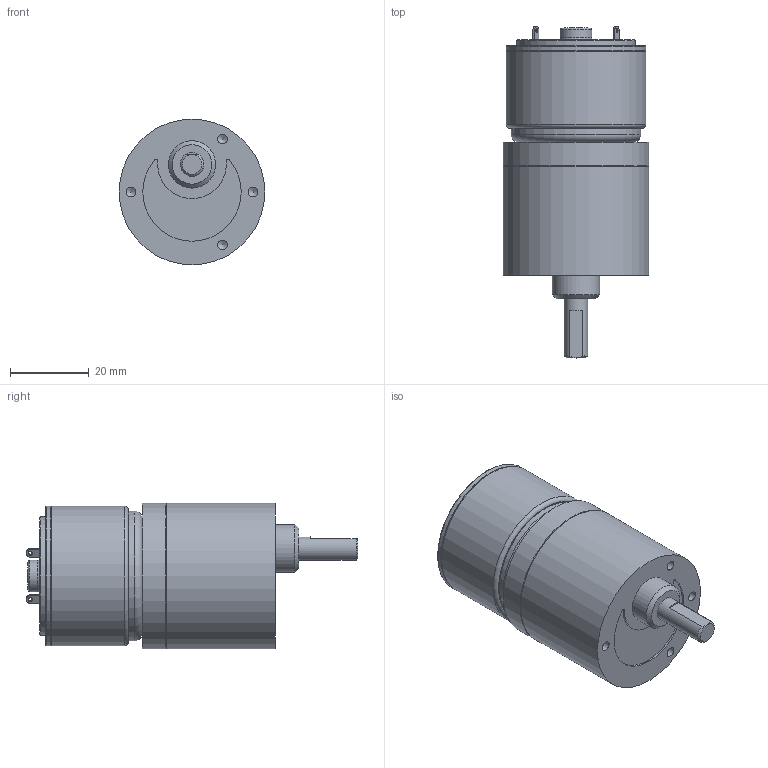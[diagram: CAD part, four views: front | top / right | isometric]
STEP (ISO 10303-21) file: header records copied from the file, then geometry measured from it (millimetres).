
FILE_DESCRIPTION((''),'2;1');
FILE_NAME('C:\Documents and Settings\SSEGAWA\デスクトップ\TP-3526E-HM-6.STP','2013-07-09T15:15:31',('SSEGAWA'),(''),'Autodesk Inventor 2010','Autodesk Inventor 2010','');
FILE_SCHEMA(('CONFIG_CONTROL_DESIGN'));
Length unit declared in the file: millimetre
Products named in the file (3): tp_3526e_hm_6; hm_6; tp_3526e
Assembly tree (2 placements, depth 2):
  tp_3526e_hm_6
    hm_6
    tp_3526e
Bounding box: 37 x 84.3 x 37 mm (x, y, z)
Volume: 62137.3 mm3; surface area: 11732.3 mm2
Topology: 2 solids, 2 shells, 76 faces, 162 edges, 106 vertices
Faces by surface type: plane 28, cylinder 22, bspline 18, torus 5, cone 3
Full cylindrical faces by diameter (mm): 1.1 x1, 2 x1, 2.4 x1, 5 x1, 6 x1, 8 x1, 10 x1, 12 x1, 30 x1, 33 x1, 35 x1, 35.4 x2, 36.6 x1, 37 x2
Entity records: 2088 total; most frequent: CARTESIAN_POINT 659, DIRECTION 297, ORIENTED_EDGE 202, EDGE_LOOP 137, AXIS2_PLACEMENT_3D 135, EDGE_CURVE 101, VERTEX_POINT 86, FACE_OUTER_BOUND 76
